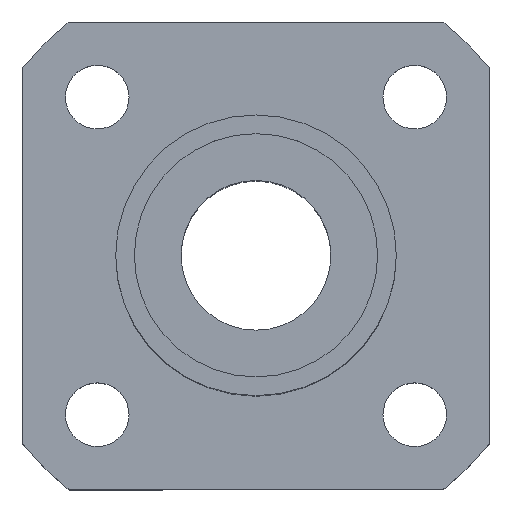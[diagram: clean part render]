
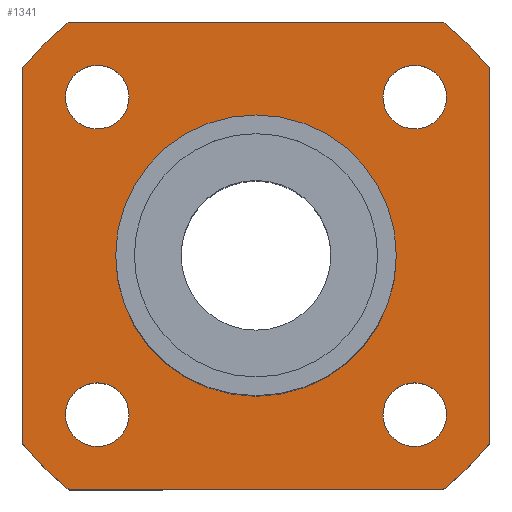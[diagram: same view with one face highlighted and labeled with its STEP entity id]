
A CAD part, top view. The second image highlights one B-rep face of the part: STEP entity #1341.
In plain terms, the highlighted planar face has unit normal (0, 0, 1).
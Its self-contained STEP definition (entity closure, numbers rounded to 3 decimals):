
#91=CARTESIAN_POINT('',(-21.531,3.294,5.));
#92=VERTEX_POINT('',#91);
#101=CARTESIAN_POINT('',(-6.531,3.294,5.0));
#102=VERTEX_POINT('',#101);
#103=CARTESIAN_POINT('',(-14.031,3.294,5.0));
#104=DIRECTION('',(0.0,0.0,-1.0));
#105=DIRECTION('',(-1.0,0.0,0.0));
#106=AXIS2_PLACEMENT_3D('',#103,#104,#105);
#107=CIRCLE('',#106,7.5);
#108=EDGE_CURVE('',#102,#92,#107,.T.);
#217=CARTESIAN_POINT('',(-20.816,-5.191,5.0));
#218=VERTEX_POINT('',#217);
#227=CARTESIAN_POINT('',(-24.216,-5.191,5.0));
#228=VERTEX_POINT('',#227);
#229=CARTESIAN_POINT('',(-22.516,-5.191,5.0));
#230=DIRECTION('',(0.0,0.0,-1.0));
#231=DIRECTION('',(1.0,0.0,0.0));
#232=AXIS2_PLACEMENT_3D('',#229,#230,#231);
#233=CIRCLE('',#232,1.7);
#234=EDGE_CURVE('',#228,#218,#233,.T.);
#301=CARTESIAN_POINT('',(-3.845,11.78,5.0));
#302=VERTEX_POINT('',#301);
#311=CARTESIAN_POINT('',(-7.245,11.78,5.0));
#312=VERTEX_POINT('',#311);
#313=CARTESIAN_POINT('',(-5.545,11.78,5.0));
#314=DIRECTION('',(0.0,0.0,-1.0));
#315=DIRECTION('',(1.0,0.0,0.0));
#316=AXIS2_PLACEMENT_3D('',#313,#314,#315);
#317=CIRCLE('',#316,1.7);
#318=EDGE_CURVE('',#312,#302,#317,.T.);
#385=CARTESIAN_POINT('',(-20.816,11.78,5.0));
#386=VERTEX_POINT('',#385);
#395=CARTESIAN_POINT('',(-24.216,11.78,5.0));
#396=VERTEX_POINT('',#395);
#397=CARTESIAN_POINT('',(-22.516,11.78,5.0));
#398=DIRECTION('',(0.0,0.0,-1.0));
#399=DIRECTION('',(1.0,0.0,0.0));
#400=AXIS2_PLACEMENT_3D('',#397,#398,#399);
#401=CIRCLE('',#400,1.7);
#402=EDGE_CURVE('',#396,#386,#401,.T.);
#469=CARTESIAN_POINT('',(-3.845,-5.191,5.0));
#470=VERTEX_POINT('',#469);
#479=CARTESIAN_POINT('',(-7.245,-5.191,5.0));
#480=VERTEX_POINT('',#479);
#481=CARTESIAN_POINT('',(-5.545,-5.191,5.0));
#482=DIRECTION('',(0.0,0.0,-1.0));
#483=DIRECTION('',(1.0,0.0,0.0));
#484=AXIS2_PLACEMENT_3D('',#481,#482,#483);
#485=CIRCLE('',#484,1.7);
#486=EDGE_CURVE('',#480,#470,#485,.T.);
#686=CARTESIAN_POINT('',(-5.545,-5.191,5.0));
#687=DIRECTION('',(0.0,0.0,-1.0));
#688=DIRECTION('',(1.0,0.0,0.0));
#689=AXIS2_PLACEMENT_3D('',#686,#687,#688);
#690=CIRCLE('',#689,1.7);
#691=EDGE_CURVE('',#470,#480,#690,.T.);
#748=CARTESIAN_POINT('',(-22.516,11.78,5.0));
#749=DIRECTION('',(0.0,0.0,-1.0));
#750=DIRECTION('',(1.0,0.0,0.0));
#751=AXIS2_PLACEMENT_3D('',#748,#749,#750);
#752=CIRCLE('',#751,1.7);
#753=EDGE_CURVE('',#386,#396,#752,.T.);
#810=CARTESIAN_POINT('',(-5.545,11.78,5.0));
#811=DIRECTION('',(0.0,0.0,-1.0));
#812=DIRECTION('',(1.0,0.0,0.0));
#813=AXIS2_PLACEMENT_3D('',#810,#811,#812);
#814=CIRCLE('',#813,1.7);
#815=EDGE_CURVE('',#302,#312,#814,.T.);
#872=CARTESIAN_POINT('',(-22.516,-5.191,5.0));
#873=DIRECTION('',(0.0,0.0,-1.0));
#874=DIRECTION('',(1.0,0.0,0.0));
#875=AXIS2_PLACEMENT_3D('',#872,#873,#874);
#876=CIRCLE('',#875,1.7);
#877=EDGE_CURVE('',#218,#228,#876,.T.);
#1074=CARTESIAN_POINT('',(-14.031,3.294,5.0));
#1075=DIRECTION('',(0.0,0.0,-1.0));
#1076=DIRECTION('',(-1.0,0.0,0.0));
#1077=AXIS2_PLACEMENT_3D('',#1074,#1075,#1076);
#1078=CIRCLE('',#1077,7.5);
#1079=EDGE_CURVE('',#92,#102,#1078,.T.);
#1115=CARTESIAN_POINT('',(-4.043,15.794,5.0));
#1116=VERTEX_POINT('',#1115);
#1117=CARTESIAN_POINT('',(-1.531,13.282,5.0));
#1118=VERTEX_POINT('',#1117);
#1119=CARTESIAN_POINT('',(-14.031,3.294,5.0));
#1120=DIRECTION('',(0.0,0.0,-1.0));
#1121=DIRECTION('',(0.781,0.624,0.0));
#1122=AXIS2_PLACEMENT_3D('',#1119,#1120,#1121);
#1123=CIRCLE('',#1122,16.0);
#1124=EDGE_CURVE('',#1116,#1118,#1123,.T.);
#1147=CARTESIAN_POINT('',(-1.531,-6.693,5.0));
#1148=VERTEX_POINT('',#1147);
#1149=CARTESIAN_POINT('',(-1.531,13.282,5.0));
#1150=DIRECTION('',(0.0,-1.0,0.0));
#1151=VECTOR('',#1150,19.975);
#1152=LINE('',#1149,#1151);
#1153=EDGE_CURVE('',#1118,#1148,#1152,.T.);
#1171=CARTESIAN_POINT('',(-4.043,-9.206,5.0));
#1172=VERTEX_POINT('',#1171);
#1173=CARTESIAN_POINT('',(-14.031,3.294,5.0));
#1174=DIRECTION('',(0.0,0.0,-1.0));
#1175=DIRECTION('',(0.624,-0.781,0.0));
#1176=AXIS2_PLACEMENT_3D('',#1173,#1174,#1175);
#1177=CIRCLE('',#1176,16.0);
#1178=EDGE_CURVE('',#1148,#1172,#1177,.T.);
#1196=CARTESIAN_POINT('',(-24.018,-9.206,5.0));
#1197=VERTEX_POINT('',#1196);
#1198=CARTESIAN_POINT('',(-4.043,-9.206,5.0));
#1199=DIRECTION('',(-1.0,0.0,0.0));
#1200=VECTOR('',#1199,19.975);
#1201=LINE('',#1198,#1200);
#1202=EDGE_CURVE('',#1172,#1197,#1201,.T.);
#1220=CARTESIAN_POINT('',(-26.531,-6.693,5.0));
#1221=VERTEX_POINT('',#1220);
#1222=CARTESIAN_POINT('',(-14.031,3.294,5.0));
#1223=DIRECTION('',(0.0,0.0,-1.0));
#1224=DIRECTION('',(-0.781,-0.624,0.0));
#1225=AXIS2_PLACEMENT_3D('',#1222,#1223,#1224);
#1226=CIRCLE('',#1225,16.0);
#1227=EDGE_CURVE('',#1197,#1221,#1226,.T.);
#1245=CARTESIAN_POINT('',(-26.531,13.282,5.0));
#1246=VERTEX_POINT('',#1245);
#1247=CARTESIAN_POINT('',(-26.531,-6.693,5.0));
#1248=DIRECTION('',(0.0,1.0,0.0));
#1249=VECTOR('',#1248,19.975);
#1250=LINE('',#1247,#1249);
#1251=EDGE_CURVE('',#1221,#1246,#1250,.T.);
#1269=CARTESIAN_POINT('',(-24.018,15.794,5.0));
#1270=VERTEX_POINT('',#1269);
#1271=CARTESIAN_POINT('',(-14.031,3.294,5.0));
#1272=DIRECTION('',(0.0,0.0,-1.));
#1273=DIRECTION('',(-0.624,0.781,0.0));
#1274=AXIS2_PLACEMENT_3D('',#1271,#1272,#1273);
#1275=CIRCLE('',#1274,16.0);
#1276=EDGE_CURVE('',#1246,#1270,#1275,.T.);
#1294=CARTESIAN_POINT('',(-24.018,15.794,5.0));
#1295=DIRECTION('',(1.0,0.0,0.0));
#1296=VECTOR('',#1295,19.975);
#1297=LINE('',#1294,#1296);
#1298=EDGE_CURVE('',#1270,#1116,#1297,.T.);
#1306=CARTESIAN_POINT('',(-14.031,3.294,5.0));
#1307=DIRECTION('',(0.0,0.0,1.0));
#1308=DIRECTION('',(1.0,0.0,0.0));
#1309=AXIS2_PLACEMENT_3D('',#1306,#1307,#1308);
#1310=PLANE('',#1309);
#1311=ORIENTED_EDGE('',*,*,#1124,.F.);
#1312=ORIENTED_EDGE('',*,*,#1298,.F.);
#1313=ORIENTED_EDGE('',*,*,#1276,.F.);
#1314=ORIENTED_EDGE('',*,*,#1251,.F.);
#1315=ORIENTED_EDGE('',*,*,#1227,.F.);
#1316=ORIENTED_EDGE('',*,*,#1202,.F.);
#1317=ORIENTED_EDGE('',*,*,#1178,.F.);
#1318=ORIENTED_EDGE('',*,*,#1153,.F.);
#1319=EDGE_LOOP('',(#1311,#1312,#1313,#1314,#1315,#1316,#1317,#1318));
#1320=FACE_OUTER_BOUND('',#1319,.T.);
#1321=ORIENTED_EDGE('',*,*,#486,.T.);
#1322=ORIENTED_EDGE('',*,*,#691,.T.);
#1323=EDGE_LOOP('',(#1321,#1322));
#1324=FACE_BOUND('',#1323,.T.);
#1325=ORIENTED_EDGE('',*,*,#402,.T.);
#1326=ORIENTED_EDGE('',*,*,#753,.T.);
#1327=EDGE_LOOP('',(#1325,#1326));
#1328=FACE_BOUND('',#1327,.T.);
#1329=ORIENTED_EDGE('',*,*,#318,.T.);
#1330=ORIENTED_EDGE('',*,*,#815,.T.);
#1331=EDGE_LOOP('',(#1329,#1330));
#1332=FACE_BOUND('',#1331,.T.);
#1333=ORIENTED_EDGE('',*,*,#234,.T.);
#1334=ORIENTED_EDGE('',*,*,#877,.T.);
#1335=EDGE_LOOP('',(#1333,#1334));
#1336=FACE_BOUND('',#1335,.T.);
#1337=ORIENTED_EDGE('',*,*,#108,.T.);
#1338=ORIENTED_EDGE('',*,*,#1079,.T.);
#1339=EDGE_LOOP('',(#1337,#1338));
#1340=FACE_BOUND('',#1339,.T.);
#1341=ADVANCED_FACE('',(#1320,#1324,#1328,#1332,#1336,#1340),#1310,.T.);
